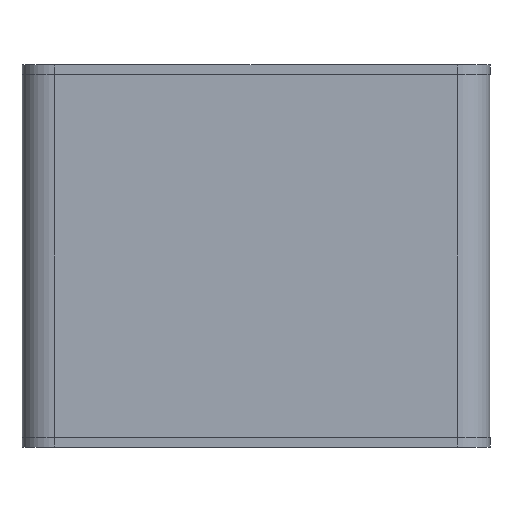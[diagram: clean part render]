
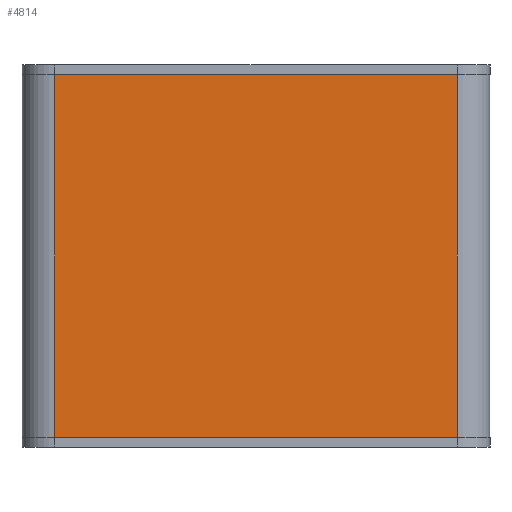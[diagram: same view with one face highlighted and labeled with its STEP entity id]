
A CAD part, front view. The second image highlights one B-rep face of the part: STEP entity #4814.
In plain terms, the highlighted planar face has unit normal (0, -1, 0).
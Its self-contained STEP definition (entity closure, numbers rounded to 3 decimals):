
#84 = PLANE('',#85);
#85 = AXIS2_PLACEMENT_3D('',#86,#87,#88);
#86 = CARTESIAN_POINT('',(0.,0.,55.));
#87 = DIRECTION('',(0.,0.,1.));
#88 = DIRECTION('',(1.,0.,-0.));
#139 = PLANE('',#140);
#140 = AXIS2_PLACEMENT_3D('',#141,#142,#143);
#141 = CARTESIAN_POINT('',(0.,0.,0.));
#142 = DIRECTION('',(0.,0.,1.));
#143 = DIRECTION('',(1.,0.,-0.));
#270 = CYLINDRICAL_SURFACE('',#271,5.);
#271 = AXIS2_PLACEMENT_3D('',#272,#273,#274);
#272 = CARTESIAN_POINT('',(-30.5,-7.5,0.));
#273 = DIRECTION('',(-0.,0.,-1.));
#274 = DIRECTION('',(1.,0.,0.));
#309 = VERTEX_POINT('2_region0_Vertex_8',#310);
#310 = CARTESIAN_POINT('',(-30.5,-12.5,0.));
#332 = EDGE_CURVE('2_region0_Edge_14',#309,#333,#335,.T.);
#333 = VERTEX_POINT('2_region0_Vertex_10',#334);
#334 = CARTESIAN_POINT('',(30.5,-12.5,0.));
#335 = SURFACE_CURVE('',#336,(#340,#347),.PCURVE_S1.);
#336 = LINE('',#337,#338);
#337 = CARTESIAN_POINT('',(-30.5,-12.5,0.));
#338 = VECTOR('',#339,1.);
#339 = DIRECTION('',(1.,0.,0.));
#340 = PCURVE('',#139,#341);
#341 = DEFINITIONAL_REPRESENTATION('',(#342),#346);
#342 = LINE('',#343,#344);
#343 = CARTESIAN_POINT('',(-30.5,-12.5));
#344 = VECTOR('',#345,1.);
#345 = DIRECTION('',(1.,0.));
#346 = ( GEOMETRIC_REPRESENTATION_CONTEXT(2) 
PARAMETRIC_REPRESENTATION_CONTEXT() REPRESENTATION_CONTEXT('2D SPACE',''
  ) );
#347 = PCURVE('',#348,#353);
#348 = PLANE('',#349);
#349 = AXIS2_PLACEMENT_3D('',#350,#351,#352);
#350 = CARTESIAN_POINT('',(-30.5,-12.5,0.));
#351 = DIRECTION('',(0.,1.,0.));
#352 = DIRECTION('',(1.,0.,0.));
#353 = DEFINITIONAL_REPRESENTATION('',(#354),#358);
#354 = LINE('',#355,#356);
#355 = CARTESIAN_POINT('',(0.,0.));
#356 = VECTOR('',#357,1.);
#357 = DIRECTION('',(1.,0.));
#358 = ( GEOMETRIC_REPRESENTATION_CONTEXT(2) 
PARAMETRIC_REPRESENTATION_CONTEXT() REPRESENTATION_CONTEXT('2D SPACE',''
  ) );
#377 = CYLINDRICAL_SURFACE('',#378,5.);
#378 = AXIS2_PLACEMENT_3D('',#379,#380,#381);
#379 = CARTESIAN_POINT('',(30.5,-7.5,0.));
#380 = DIRECTION('',(-0.,0.,-1.));
#381 = DIRECTION('',(1.,0.,0.));
#2714 = VERTEX_POINT('2_region0_Vertex_9',#2715);
#2715 = CARTESIAN_POINT('',(-30.5,-12.5,55.));
#2737 = EDGE_CURVE('2_region0_Edge_15',#2714,#2738,#2740,.T.);
#2738 = VERTEX_POINT('2_region0_Vertex_11',#2739);
#2739 = CARTESIAN_POINT('',(30.5,-12.5,55.));
#2740 = SURFACE_CURVE('',#2741,(#2745,#2752),.PCURVE_S1.);
#2741 = LINE('',#2742,#2743);
#2742 = CARTESIAN_POINT('',(-30.5,-12.5,55.));
#2743 = VECTOR('',#2744,1.);
#2744 = DIRECTION('',(1.,0.,0.));
#2745 = PCURVE('',#84,#2746);
#2746 = DEFINITIONAL_REPRESENTATION('',(#2747),#2751);
#2747 = LINE('',#2748,#2749);
#2748 = CARTESIAN_POINT('',(-30.5,-12.5));
#2749 = VECTOR('',#2750,1.);
#2750 = DIRECTION('',(1.,0.));
#2751 = ( GEOMETRIC_REPRESENTATION_CONTEXT(2) 
PARAMETRIC_REPRESENTATION_CONTEXT() REPRESENTATION_CONTEXT('2D SPACE',''
  ) );
#2752 = PCURVE('',#348,#2753);
#2753 = DEFINITIONAL_REPRESENTATION('',(#2754),#2758);
#2754 = LINE('',#2755,#2756);
#2755 = CARTESIAN_POINT('',(0.,-55.));
#2756 = VECTOR('',#2757,1.);
#2757 = DIRECTION('',(1.,0.));
#2758 = ( GEOMETRIC_REPRESENTATION_CONTEXT(2) 
PARAMETRIC_REPRESENTATION_CONTEXT() REPRESENTATION_CONTEXT('2D SPACE',''
  ) );
#4766 = EDGE_CURVE('2_region0_Edge_10',#309,#2714,#4767,.T.);
#4767 = SURFACE_CURVE('',#4768,(#4772,#4779),.PCURVE_S1.);
#4768 = LINE('',#4769,#4770);
#4769 = CARTESIAN_POINT('',(-30.5,-12.5,0.));
#4770 = VECTOR('',#4771,1.);
#4771 = DIRECTION('',(0.,0.,1.));
#4772 = PCURVE('',#270,#4773);
#4773 = DEFINITIONAL_REPRESENTATION('',(#4774),#4778);
#4774 = LINE('',#4775,#4776);
#4775 = CARTESIAN_POINT('',(-4.712,0.));
#4776 = VECTOR('',#4777,1.);
#4777 = DIRECTION('',(-0.,-1.));
#4778 = ( GEOMETRIC_REPRESENTATION_CONTEXT(2) 
PARAMETRIC_REPRESENTATION_CONTEXT() REPRESENTATION_CONTEXT('2D SPACE',''
  ) );
#4779 = PCURVE('',#348,#4780);
#4780 = DEFINITIONAL_REPRESENTATION('',(#4781),#4785);
#4781 = LINE('',#4782,#4783);
#4782 = CARTESIAN_POINT('',(0.,0.));
#4783 = VECTOR('',#4784,1.);
#4784 = DIRECTION('',(0.,-1.));
#4785 = ( GEOMETRIC_REPRESENTATION_CONTEXT(2) 
PARAMETRIC_REPRESENTATION_CONTEXT() REPRESENTATION_CONTEXT('2D SPACE',''
  ) );
#4814 = ADVANCED_FACE('2_region0_Face_143',(#4815),#348,.F.);
#4815 = FACE_BOUND('',#4816,.F.);
#4816 = EDGE_LOOP('undefined shape id',(#4817,#4818,#4819,#4840));
#4817 = ORIENTED_EDGE('',*,*,#4766,.T.);
#4818 = ORIENTED_EDGE('',*,*,#2737,.T.);
#4819 = ORIENTED_EDGE('',*,*,#4820,.F.);
#4820 = EDGE_CURVE('2_region0_Edge_13',#333,#2738,#4821,.T.);
#4821 = SURFACE_CURVE('',#4822,(#4826,#4833),.PCURVE_S1.);
#4822 = LINE('',#4823,#4824);
#4823 = CARTESIAN_POINT('',(30.5,-12.5,0.));
#4824 = VECTOR('',#4825,1.);
#4825 = DIRECTION('',(0.,0.,1.));
#4826 = PCURVE('',#348,#4827);
#4827 = DEFINITIONAL_REPRESENTATION('',(#4828),#4832);
#4828 = LINE('',#4829,#4830);
#4829 = CARTESIAN_POINT('',(61.,0.));
#4830 = VECTOR('',#4831,1.);
#4831 = DIRECTION('',(0.,-1.));
#4832 = ( GEOMETRIC_REPRESENTATION_CONTEXT(2) 
PARAMETRIC_REPRESENTATION_CONTEXT() REPRESENTATION_CONTEXT('2D SPACE',''
  ) );
#4833 = PCURVE('',#377,#4834);
#4834 = DEFINITIONAL_REPRESENTATION('',(#4835),#4839);
#4835 = LINE('',#4836,#4837);
#4836 = CARTESIAN_POINT('',(-4.712,0.));
#4837 = VECTOR('',#4838,1.);
#4838 = DIRECTION('',(-0.,-1.));
#4839 = ( GEOMETRIC_REPRESENTATION_CONTEXT(2) 
PARAMETRIC_REPRESENTATION_CONTEXT() REPRESENTATION_CONTEXT('2D SPACE',''
  ) );
#4840 = ORIENTED_EDGE('',*,*,#332,.F.);
